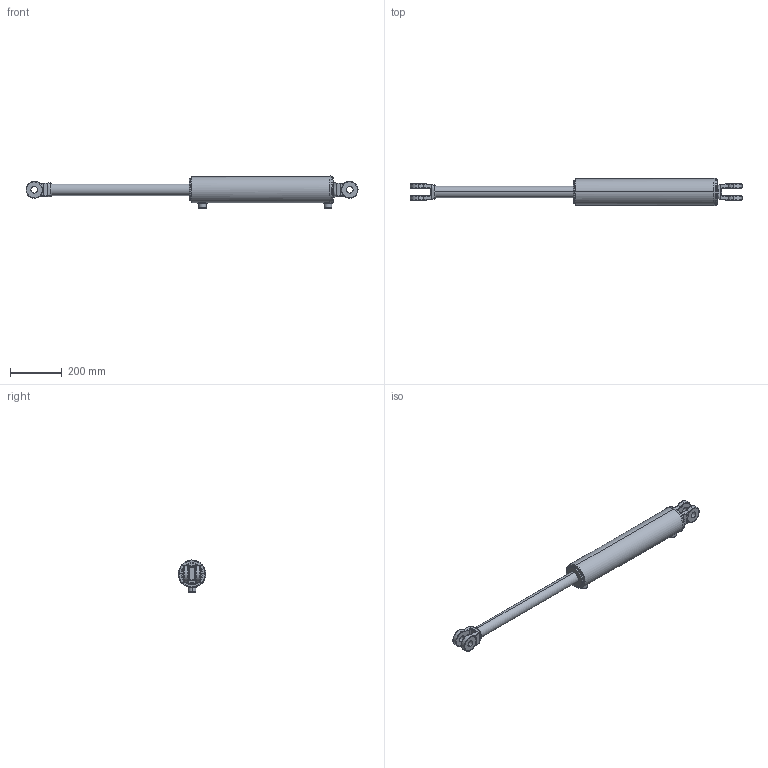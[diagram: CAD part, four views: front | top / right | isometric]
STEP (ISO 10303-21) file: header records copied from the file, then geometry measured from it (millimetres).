
FILE_DESCRIPTION (( 'STEP AP203' ), '1' );
FILE_NAME ('CL-CL350175x457 (18) extended.STEP', '2014-11-22T16:44:13', ( '' ), ( '' ), 'SwSTEP 2.0', 'SolidWorks 2014', '' );
FILE_SCHEMA (( 'CONFIG_CONTROL_DESIGN' ));
Length unit declared in the file: millimetre
Products named in the file (4): CL-CL350175x457 (18) extended; CL-CL300150x  body_3.5x18; 3 in ext circlip; SPARE 6_18x1.75
Assembly tree (3 placements, depth 2):
  CL-CL350175x457 (18) extended
    CL-CL300150x  body_3.5x18
    3 in ext circlip
    SPARE 6_18x1.75
Bounding box: 1288.39 x 107.32 x 124.49 mm (x, y, z)
Volume: 4987529.3 mm3; surface area: 411681.8 mm2
Topology: 3 solids, 3 shells, 211 faces, 518 edges, 319 vertices
Faces by surface type: cylinder 91, bspline 59, plane 38, torus 15, cone 8
Entity records: 11321 total; most frequent: CARTESIAN_POINT 6234, ORIENTED_EDGE 1028, DIRECTION 941, EDGE_CURVE 514, AXIS2_PLACEMENT_3D 393, VERTEX_POINT 319, CIRCLE 235, EDGE_LOOP 233
